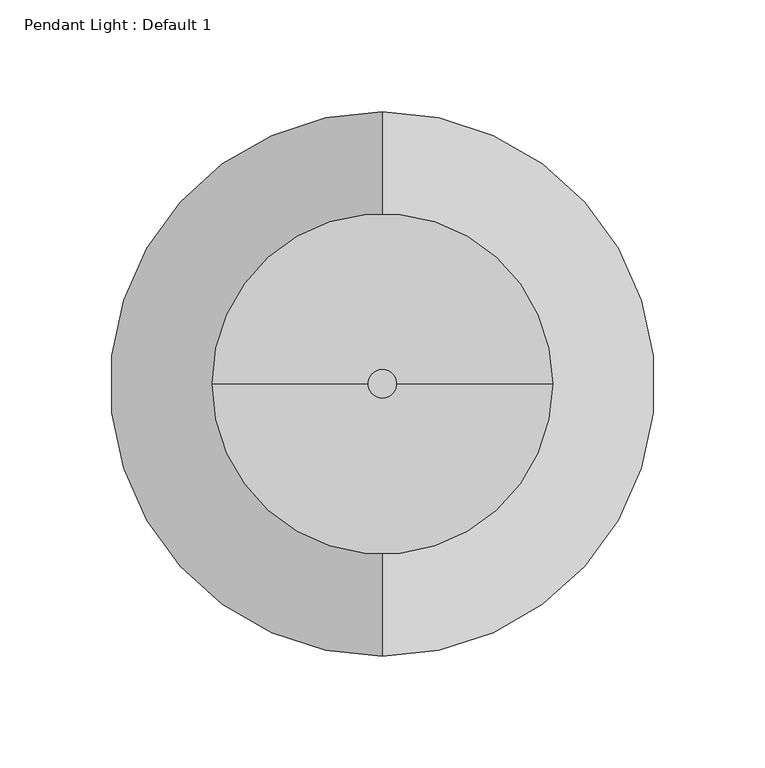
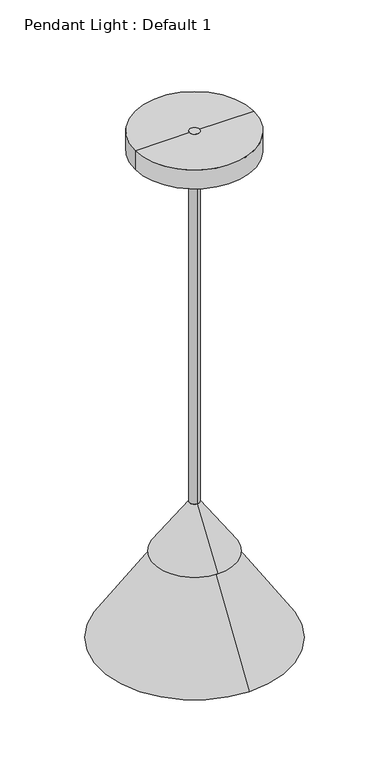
"""IFC4 building model written with IfcOpenShell, lengths in millimetres: light fixture geometry, Pendant Light : Default 1."""

from ifc_helpers import new_model, si_unit, point, frame, origin, origin_2d, place, context, project, spatial, polyline, circle_curve, trimmed, segment, composite_curve, outline, extrude, source, transform, mapped, element, save
from ifc_brep_helpers import plane_surface, cylinder_surface, revolved_surface, advanced_brep


def pendant_light_default_1_241a7df5(model_context):
    return source(origin(), model_context, "Body", "SolidModel", [
        advanced_brep(
        [(0.0, 51.8998655, 1869.6722345), (0.0, -51.8998655, 1869.6722345), (0.0, -6.6553372, 1936.7500062), (0.0, 6.6553372, 1936.7500062), (0.0, 0.0, 1869.6722345), (0.0, 0.0, 1936.7500062)],
        [
            (0, 1, circle_curve(frame((0.0, 0.0, 1869.6722345), z_axis=(0.0, 0.0, 1.0), x_axis=(0.0, -1.0, 0.0)), 51.8998655)),
            (1, 2),
            (2, 3, circle_curve(frame((0.0, 0.0, 1936.7500062), z_axis=(0.0, 0.0, -1.0), x_axis=(0.0, -1.0, 0.0)), 6.6553372)),
            (3, 0),
            (1, 0, circle_curve(frame((0.0, 0.0, 1869.6722345), z_axis=(0.0, 0.0, 1.0), x_axis=(0.0, -1.0, 0.0)), 51.8998655)),
            (3, 2, circle_curve(frame((0.0, 0.0, 1936.7500062), z_axis=(0.0, 0.0, -1.0), x_axis=(0.0, -1.0, 0.0)), 6.6553372)),
            (4, 1),
            (0, 4),
            (2, 5),
            (5, 3),
        ],
        [
            revolved_surface(polyline([(0.0, -6.6553372, 1936.7500062), (0.0, -51.8998655, 1869.6722345)]), (0.0, 0.0, 1859.6911375), (0.0, 0.0, -1.0)),
            plane_surface(frame((0.0, 0.0, 1869.6722345), z_axis=(0.0, 0.0, -1.0), x_axis=(0.0, -1.0, 0.0))),
            plane_surface(frame((0.0, 0.0, 1936.7500062), z_axis=(0.0, 0.0, 1.0), x_axis=(0.0, -1.0, 0.0))),
        ],
        [
            (0, [[1, 2, 3, 4]]),
            (0, [[5, -4, 6, -2]]),
            (1, [[7, -1, 8]]),
            (1, [[-8, -5, -7]]),
            (2, [[-3, 9, 10]]),
            (2, [[-6, -10, -9]]),
        ],
    ),
        advanced_brep(
        [(0.0, 121.8146741, 1752.6), (0.0, -121.8146741, 1752.6), (0.0, -6.35, 1930.4000062), (0.0, 6.35, 1930.4000062), (0.0, 109.1146741, 1752.6), (0.0, -109.1146741, 1752.6), (0.0, 4.8000669, 1919.5382677), (0.0, -4.8000669, 1919.5382677), (0.0, 0.0, 1919.5382677), (0.0, 0.0, 1930.4000062)],
        [
            (0, 1, circle_curve(frame((0.0, 0.0, 1752.6), z_axis=(0.0, 0.0, 1.0), x_axis=(0.0, -1.0, 0.0)), 121.8146741)),
            (1, 2),
            (2, 3, circle_curve(frame((0.0, 0.0, 1930.4000062), z_axis=(0.0, 0.0, -1.0), x_axis=(0.0, -1.0, 0.0)), 6.35)),
            (3, 0),
            (1, 0, circle_curve(frame((0.0, 0.0, 1752.6), z_axis=(0.0, 0.0, 1.0), x_axis=(0.0, -1.0, 0.0)), 121.8146741)),
            (3, 2, circle_curve(frame((0.0, 0.0, 1930.4000062), z_axis=(0.0, 0.0, -1.0), x_axis=(0.0, -1.0, 0.0)), 6.35)),
            (4, 5, circle_curve(frame((0.0, 0.0, 1752.6), z_axis=(0.0, 0.0, 1.0), x_axis=(0.0, -1.0, 0.0)), 109.1146741)),
            (5, 1),
            (0, 4),
            (5, 4, circle_curve(frame((0.0, 0.0, 1752.6), z_axis=(0.0, 0.0, 1.0), x_axis=(0.0, -1.0, 0.0)), 109.1146741)),
            (6, 7, circle_curve(frame((0.0, 0.0, 1919.5382677), z_axis=(0.0, 0.0, 1.0), x_axis=(0.0, -1.0, 0.0)), 4.8000669)),
            (7, 5),
            (4, 6),
            (7, 6, circle_curve(frame((0.0, 0.0, 1919.5382677), z_axis=(0.0, 0.0, 1.0), x_axis=(0.0, -1.0, 0.0)), 4.8000669)),
            (8, 7),
            (6, 8),
            (2, 9),
            (9, 3),
        ],
        [
            revolved_surface(polyline([(0.0, -6.35, 1930.4000062), (0.0, -121.8146741, 1752.6)]), (0.0, 0.0, 1840.3895864), (0.0, 0.0, -1.0)),
            plane_surface(frame((0.0, 0.0, 1752.6), z_axis=(0.0, 0.0, -1.0), x_axis=(0.0, -1.0, 0.0))),
            revolved_surface(polyline([(0.0, -109.1146741, 1752.6), (0.0, -4.8000669, 1919.5382677)]), (0.0, 0.0, 1840.3895864), (0.0, 0.0, -1.0)),
            plane_surface(frame((0.0, 0.0, 1919.5382677), z_axis=(0.0, 0.0, -1.0), x_axis=(0.0, -1.0, 0.0))),
            plane_surface(frame((0.0, 0.0, 1930.4000062), z_axis=(0.0, 0.0, 1.0), x_axis=(0.0, -1.0, 0.0))),
        ],
        [
            (0, [[1, 2, 3, 4]]),
            (0, [[5, -4, 6, -2]]),
            (1, [[7, 8, -1, 9]]),
            (1, [[10, -9, -5, -8]]),
            (2, [[11, 12, -7, 13]]),
            (2, [[14, -13, -10, -12]]),
            (3, [[15, -11, 16]]),
            (3, [[-16, -14, -15]]),
            (4, [[-3, 17, 18]]),
            (4, [[-6, -18, -17]]),
        ],
    ),
        extrude(outline(composite_curve([segment(trimmed(circle_curve(origin_2d(), 6.35), [point((0.0, 6.35))], [point((0.0, -6.35))], False, "CARTESIAN"), True, "CONTINUOUS"), segment(trimmed(circle_curve(origin_2d(), 6.35), [point((0.0, -6.35))], [point((0.0, 6.35))], False, "CARTESIAN"), True, "CONTINUOUS")], self_intersect=False)), frame((0.0, 0.0, 1828.8000062), z_axis=(0.0, 0.0, 1.0), x_axis=(1.0, 0.0, 0.0)), (0.0, 0.0, 1.0), 609.5999938),
        advanced_brep(
        [(76.2, 0.0, 2413.0), (-76.2, 0.0, 2413.0), (-76.2, 0.0, 2438.4), (76.2, 0.0, 2438.4), (0.0, 0.0, 2377.4673564), (0.0, 0.0, 2438.4)],
        [
            (0, 1, circle_curve(frame((0.0, 0.0, 2413.0), z_axis=(0.0, 0.0, 1.0), x_axis=(-1.0, 0.0, 0.0)), 76.2)),
            (1, 2),
            (2, 3, circle_curve(frame((0.0, 0.0, 2438.4), z_axis=(0.0, 0.0, -1.0), x_axis=(-1.0, 0.0, 0.0)), 76.2)),
            (3, 0),
            (1, 0, circle_curve(frame((0.0, 0.0, 2413.0), z_axis=(0.0, 0.0, 1.0), x_axis=(-1.0, 0.0, 0.0)), 76.2)),
            (3, 2, circle_curve(frame((0.0, 0.0, 2438.4), z_axis=(0.0, 0.0, -1.0), x_axis=(-1.0, 0.0, 0.0)), 76.2)),
            (4, 1),
            (0, 4),
            (2, 5),
            (5, 3),
        ],
        [
            cylinder_surface(frame((0.0, 0.0, 2514.6), z_axis=(0.0, 0.0, -1.0), x_axis=(-1.0, 0.0, 0.0)), 76.2),
            revolved_surface(polyline([(-76.2, 0.0, 2413.0), (0.0, 0.0, 2377.4673564)]), (0.0, 0.0, 2514.6), (0.0, 0.0, -1.0)),
            plane_surface(frame((0.0, 0.0, 2438.4), z_axis=(0.0, 0.0, 1.0), x_axis=(-1.0, 0.0, 0.0))),
        ],
        [
            (0, [[1, 2, 3, 4]]),
            (0, [[5, -4, 6, -2]]),
            (1, [[7, -1, 8]]),
            (1, [[-8, -5, -7]]),
            (2, [[-3, 9, 10]]),
            (2, [[-6, -10, -9]]),
        ],
    ),
    ])


if __name__ == "__main__":
    model = new_model("IFC4")
    model_context = context("Model", 3, world=origin())
    ifc_project = project(units=[si_unit("LENGTHUNIT", "METRE", prefix="MILLI")], contexts=[model_context])
    site = spatial("IfcSite", under=ifc_project)
    building = spatial("IfcBuilding", under=site)
    placement = place(None, origin())
    pendant_light_default_1_shape = pendant_light_default_1_241a7df5(model_context)
    element("IfcLightFixture", 1, ObjectType="Pendant Light : Default 1", at=placement, inside=building, context=model_context, shape_type="MappedRepresentation", body=[
        mapped(pendant_light_default_1_shape, transform((0.0, 0.0, 0.0), x_axis=(1.0, 0.0, 0.0), y_axis=(0.0, 1.0, 0.0), z_axis=(0.0, 0.0, 1.0))),
    ])
    save(model, "model.ifc")
